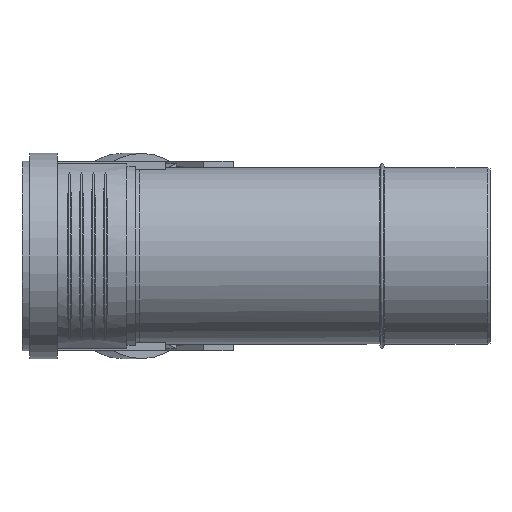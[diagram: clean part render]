
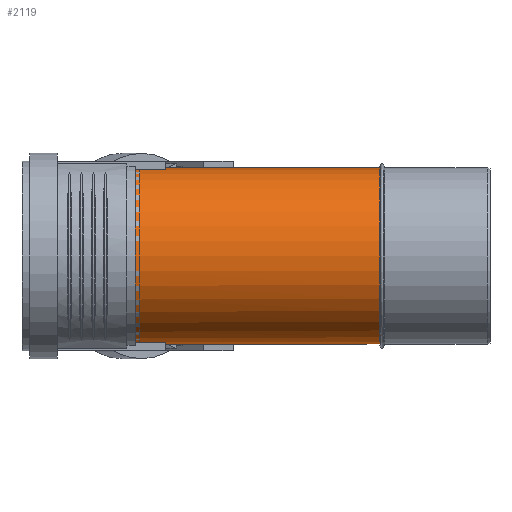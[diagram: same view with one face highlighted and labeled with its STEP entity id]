
A CAD part, left-side view. The second image highlights one B-rep face of the part: STEP entity #2119.
In plain terms, the highlighted cylindrical face has radius 62.6 mm (diameter 125.2 mm), a full revolution.
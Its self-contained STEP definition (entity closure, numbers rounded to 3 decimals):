
#175=ELLIPSE($,#2261,163.582,62.6);
#176=ELLIPSE($,#2268,163.582,62.6);
#178=ELLIPSE($,#2271,163.582,62.6);
#179=ELLIPSE($,#2272,67.758,62.6);
#180=ELLIPSE($,#2273,163.582,62.6);
#275=CYLINDRICAL_SURFACE($,#2276,62.6);
#442=FACE_BOUND($,#746,.T.);
#614=FACE_OUTER_BOUND($,#745,.T.);
#745=EDGE_LOOP($,(#1554));
#746=EDGE_LOOP($,(#1555,#1556,#1557,#1558,#1559,#1560));
#917=CIRCLE($,#2254,62.6);
#924=CIRCLE($,#2275,62.6);
#1020=VERTEX_POINT($,#3202);
#1023=VERTEX_POINT($,#3211);
#1025=VERTEX_POINT($,#3214);
#1027=VERTEX_POINT($,#3220);
#1029=VERTEX_POINT($,#3226);
#1030=VERTEX_POINT($,#3230);
#1031=VERTEX_POINT($,#3232);
#1236=EDGE_CURVE($,#1020,#1020,#917,.T.);
#1240=EDGE_CURVE($,#1025,#1023,#175,.T.);
#1246=EDGE_CURVE($,#1029,#1027,#176,.T.);
#1248=EDGE_CURVE($,#1030,#1025,#178,.T.);
#1249=EDGE_CURVE($,#1031,#1030,#179,.T.);
#1250=EDGE_CURVE($,#1027,#1031,#180,.T.);
#1251=EDGE_CURVE($,#1023,#1029,#924,.T.);
#1554=ORIENTED_EDGE($,*,*,#1236,.T.);
#1555=ORIENTED_EDGE($,*,*,#1251,.T.);
#1556=ORIENTED_EDGE($,*,*,#1246,.T.);
#1557=ORIENTED_EDGE($,*,*,#1250,.T.);
#1558=ORIENTED_EDGE($,*,*,#1249,.T.);
#1559=ORIENTED_EDGE($,*,*,#1248,.T.);
#1560=ORIENTED_EDGE($,*,*,#1240,.T.);
#2119=ADVANCED_FACE($,(#614,#442),#275,.T.);
#2254=AXIS2_PLACEMENT_3D($,#3203,#2514,#2515);
#2261=AXIS2_PLACEMENT_3D($,#3215,#2528,#2529);
#2268=AXIS2_PLACEMENT_3D($,#3227,#2543,#2544);
#2271=AXIS2_PLACEMENT_3D($,#3231,#2549,#2550);
#2272=AXIS2_PLACEMENT_3D($,#3233,#2551,#2552);
#2273=AXIS2_PLACEMENT_3D($,#3234,#2553,#2554);
#2275=AXIS2_PLACEMENT_3D($,#3236,#2557,#2558);
#2276=AXIS2_PLACEMENT_3D($,#3237,#2559,#2560);
#2514=DIRECTION('center_axis',(0.,1.,0.));
#2515=DIRECTION('ref_axis',(1.,0.,0.));
#2528=DIRECTION('center_axis',(-0.924,0.383,0.));
#2529=DIRECTION('ref_axis',(-0.383,-0.924,0.));
#2543=DIRECTION('center_axis',(-0.924,0.383,0.));
#2544=DIRECTION('ref_axis',(-0.383,-0.924,0.));
#2549=DIRECTION('center_axis',(-0.924,0.383,0.));
#2550=DIRECTION('ref_axis',(-0.383,-0.924,0.));
#2551=DIRECTION('center_axis',(-0.383,-0.924,0.));
#2552=DIRECTION('ref_axis',(0.924,-0.383,0.));
#2553=DIRECTION('center_axis',(-0.924,0.383,0.));
#2554=DIRECTION('ref_axis',(-0.383,-0.924,0.));
#2557=DIRECTION('center_axis',(0.,-1.,0.));
#2558=DIRECTION('ref_axis',(1.,0.,0.));
#2559=DIRECTION('center_axis',(0.,1.,0.));
#2560=DIRECTION('ref_axis',(1.,0.,0.));
#3202=CARTESIAN_POINT('',(-62.6,78.5,0.));
#3203=CARTESIAN_POINT('Origin',(0.,78.5,0.));
#3211=CARTESIAN_POINT('',(61.179,252.58,13.261));
#3214=CARTESIAN_POINT('',(61.138,252.48,13.45));
#3215=CARTESIAN_POINT('Origin',(0.,104.88,0.));
#3220=CARTESIAN_POINT('',(61.138,252.48,-13.45));
#3226=CARTESIAN_POINT('',(61.179,252.58,-13.261));
#3227=CARTESIAN_POINT('Origin',(0.,104.88,0.));
#3230=CARTESIAN_POINT('',(0.,104.88,62.6));
#3231=CARTESIAN_POINT('Origin',(0.,104.88,0.));
#3232=CARTESIAN_POINT('',(0.,104.88,-62.6));
#3233=CARTESIAN_POINT('Origin',(0.,104.88,0.));
#3234=CARTESIAN_POINT('Origin',(0.,104.88,0.));
#3236=CARTESIAN_POINT('Origin',(0.,252.58,0.));
#3237=CARTESIAN_POINT('Origin',(0.,0.,0.));
